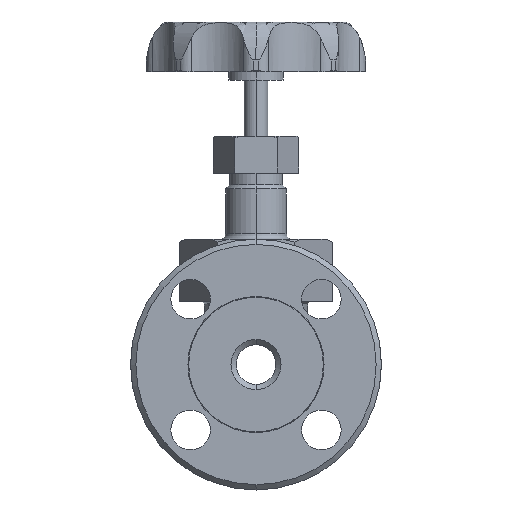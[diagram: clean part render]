
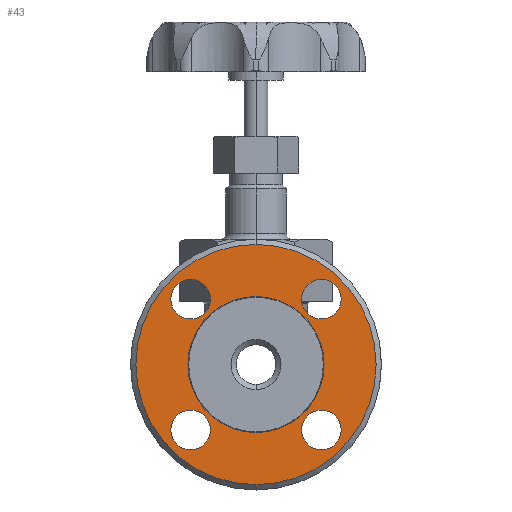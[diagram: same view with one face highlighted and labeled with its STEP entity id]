
A CAD part, left-side view. The second image highlights one B-rep face of the part: STEP entity #43.
In plain terms, the highlighted planar face has unit normal (-1, 0, 0).
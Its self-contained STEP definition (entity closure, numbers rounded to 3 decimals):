
#43=ADVANCED_FACE('',(#322,#323,#324,#325,#326,#327),#321,.T.);
#321=PLANE('',#2825);
#322=FACE_OUTER_BOUND('',#2826,.T.);
#323=FACE_BOUND('',#2827,.T.);
#324=FACE_BOUND('',#2828,.T.);
#325=FACE_BOUND('',#2829,.T.);
#326=FACE_BOUND('',#2830,.T.);
#327=FACE_BOUND('',#2831,.T.);
#2822=CARTESIAN_POINT('',(-54.,-88.808,-101.));
#2823=DIRECTION('',(-1.,0.,0.));
#2824=DIRECTION('',(0.,0.,1.));
#2825=AXIS2_PLACEMENT_3D('',#2822,#2823,#2824);
#2826=EDGE_LOOP('',(#4720,#4721));
#2827=EDGE_LOOP('',(#4722,#4723));
#2828=EDGE_LOOP('',(#4724,#4725));
#2829=EDGE_LOOP('',(#4726,#4727));
#2830=EDGE_LOOP('',(#4728,#4729));
#2831=EDGE_LOOP('',(#4730,#4731));
#4720=ORIENTED_EDGE('',*,*,#6120,.T.);
#4721=ORIENTED_EDGE('',*,*,#6121,.T.);
#4722=ORIENTED_EDGE('',*,*,#6122,.T.);
#4723=ORIENTED_EDGE('',*,*,#6123,.T.);
#4724=ORIENTED_EDGE('',*,*,#6124,.T.);
#4725=ORIENTED_EDGE('',*,*,#6125,.T.);
#4726=ORIENTED_EDGE('',*,*,#6126,.F.);
#4727=ORIENTED_EDGE('',*,*,#6127,.F.);
#4728=ORIENTED_EDGE('',*,*,#6128,.T.);
#4729=ORIENTED_EDGE('',*,*,#6129,.T.);
#4730=ORIENTED_EDGE('',*,*,#6130,.T.);
#4731=ORIENTED_EDGE('',*,*,#6131,.T.);
#6120=EDGE_CURVE('',#6914,#6915,#6916,.T.);
#6121=EDGE_CURVE('',#6915,#6914,#6922,.T.);
#6122=EDGE_CURVE('',#6928,#6929,#6930,.T.);
#6123=EDGE_CURVE('',#6929,#6928,#6936,.T.);
#6124=EDGE_CURVE('',#6942,#6943,#6944,.T.);
#6125=EDGE_CURVE('',#6943,#6942,#6950,.T.);
#6126=EDGE_CURVE('',#6956,#6957,#6958,.T.);
#6127=EDGE_CURVE('',#6957,#6956,#6964,.T.);
#6128=EDGE_CURVE('',#6970,#6971,#6972,.T.);
#6129=EDGE_CURVE('',#6971,#6970,#6978,.T.);
#6130=EDGE_CURVE('',#6984,#6985,#6986,.T.);
#6131=EDGE_CURVE('',#6985,#6984,#6992,.T.);
#6914=VERTEX_POINT('',#11666);
#6915=VERTEX_POINT('',#11667);
#6916=CIRCLE('',#11671,45.5);
#6922=CIRCLE('',#11675,45.5);
#6928=VERTEX_POINT('',#11676);
#6929=VERTEX_POINT('',#11677);
#6930=CIRCLE('',#11681,7.5);
#6936=CIRCLE('',#11685,7.5);
#6942=VERTEX_POINT('',#11686);
#6943=VERTEX_POINT('',#11687);
#6944=CIRCLE('',#11691,7.5);
#6950=CIRCLE('',#11695,7.5);
#6956=VERTEX_POINT('',#11696);
#6957=VERTEX_POINT('',#11697);
#6958=CIRCLE('',#11701,25.768);
#6964=CIRCLE('',#11705,25.768);
#6970=VERTEX_POINT('',#11706);
#6971=VERTEX_POINT('',#11707);
#6972=CIRCLE('',#11711,7.5);
#6978=CIRCLE('',#11715,7.5);
#6984=VERTEX_POINT('',#11716);
#6985=VERTEX_POINT('',#11717);
#6986=CIRCLE('',#11721,7.5);
#6992=CIRCLE('',#11725,7.5);
#11666=CARTESIAN_POINT('',(-54.,0.,45.5));
#11667=CARTESIAN_POINT('',(-54.,0.,-45.5));
#11668=CARTESIAN_POINT('',(-54.,0.,0.));
#11669=DIRECTION('',(-1.,0.,0.));
#11670=DIRECTION('',(0.,0.,1.));
#11671=AXIS2_PLACEMENT_3D('',#11668,#11669,#11670);
#11672=CARTESIAN_POINT('',(-54.,0.,0.));
#11673=DIRECTION('',(-1.,0.,0.));
#11674=DIRECTION('',(0.,0.,1.));
#11675=AXIS2_PLACEMENT_3D('',#11672,#11673,#11674);
#11676=CARTESIAN_POINT('',(-54.,24.749,-17.249));
#11677=CARTESIAN_POINT('',(-54.,24.749,-32.249));
#11678=CARTESIAN_POINT('',(-54.,24.749,-24.749));
#11679=DIRECTION('',(1.,0.,0.));
#11680=DIRECTION('',(0.,0.,1.));
#11681=AXIS2_PLACEMENT_3D('',#11678,#11679,#11680);
#11682=CARTESIAN_POINT('',(-54.,24.749,-24.749));
#11683=DIRECTION('',(1.,0.,0.));
#11684=DIRECTION('',(0.,0.,1.));
#11685=AXIS2_PLACEMENT_3D('',#11682,#11683,#11684);
#11686=CARTESIAN_POINT('',(-54.,-24.749,-17.249));
#11687=CARTESIAN_POINT('',(-54.,-24.749,-32.249));
#11688=CARTESIAN_POINT('',(-54.,-24.749,-24.749));
#11689=DIRECTION('',(1.,0.,0.));
#11690=DIRECTION('',(0.,0.,1.));
#11691=AXIS2_PLACEMENT_3D('',#11688,#11689,#11690);
#11692=CARTESIAN_POINT('',(-54.,-24.749,-24.749));
#11693=DIRECTION('',(1.,0.,0.));
#11694=DIRECTION('',(0.,0.,1.));
#11695=AXIS2_PLACEMENT_3D('',#11692,#11693,#11694);
#11696=CARTESIAN_POINT('',(-54.,0.,-25.768));
#11697=CARTESIAN_POINT('',(-54.,0.,25.768));
#11698=CARTESIAN_POINT('',(-54.,0.,0.));
#11699=DIRECTION('',(-1.,0.,0.));
#11700=DIRECTION('',(0.,0.,1.));
#11701=AXIS2_PLACEMENT_3D('',#11698,#11699,#11700);
#11702=CARTESIAN_POINT('',(-54.,0.,0.));
#11703=DIRECTION('',(-1.,0.,0.));
#11704=DIRECTION('',(0.,0.,1.));
#11705=AXIS2_PLACEMENT_3D('',#11702,#11703,#11704);
#11706=CARTESIAN_POINT('',(-54.,-24.749,32.249));
#11707=CARTESIAN_POINT('',(-54.,-24.749,17.249));
#11708=CARTESIAN_POINT('',(-54.,-24.749,24.749));
#11709=DIRECTION('',(1.,0.,0.));
#11710=DIRECTION('',(0.,0.,1.));
#11711=AXIS2_PLACEMENT_3D('',#11708,#11709,#11710);
#11712=CARTESIAN_POINT('',(-54.,-24.749,24.749));
#11713=DIRECTION('',(1.,0.,0.));
#11714=DIRECTION('',(0.,0.,1.));
#11715=AXIS2_PLACEMENT_3D('',#11712,#11713,#11714);
#11716=CARTESIAN_POINT('',(-54.,24.749,32.249));
#11717=CARTESIAN_POINT('',(-54.,24.749,17.249));
#11718=CARTESIAN_POINT('',(-54.,24.749,24.749));
#11719=DIRECTION('',(1.,0.,0.));
#11720=DIRECTION('',(0.,0.,1.));
#11721=AXIS2_PLACEMENT_3D('',#11718,#11719,#11720);
#11722=CARTESIAN_POINT('',(-54.,24.749,24.749));
#11723=DIRECTION('',(1.,0.,0.));
#11724=DIRECTION('',(0.,0.,1.));
#11725=AXIS2_PLACEMENT_3D('',#11722,#11723,#11724);
